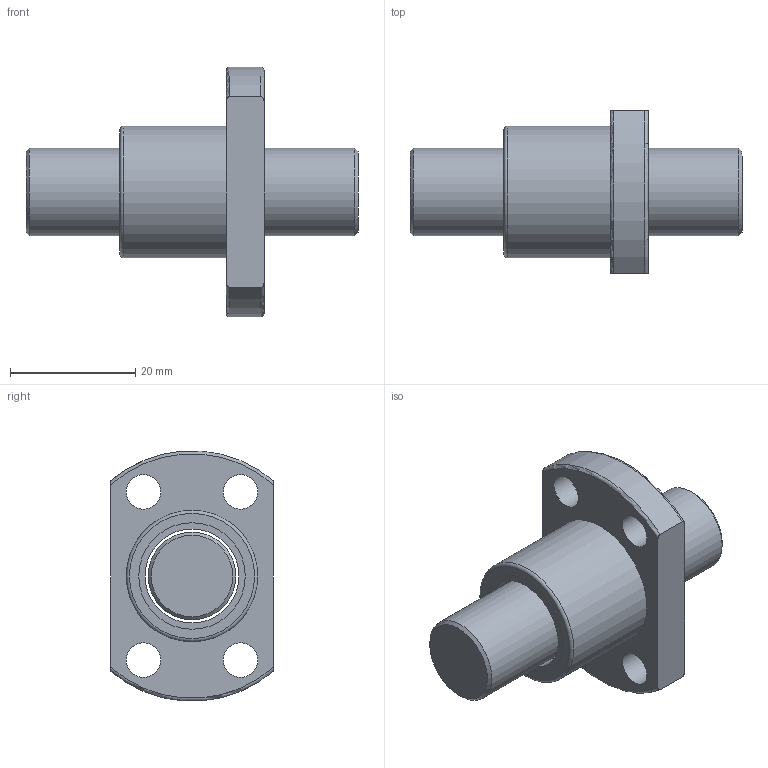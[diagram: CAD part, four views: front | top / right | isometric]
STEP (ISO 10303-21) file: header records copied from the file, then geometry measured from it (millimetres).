
FILE_DESCRIPTION(/* description */ (''),/* implementation_level */ '2;1');
FILE_NAME(/* name */ 'SFK1402',/* time_stamp */ '2007-10-26T10:41:42+08:00',/* author */ (''),/* organization */ (''),/* preprocessor_version */ 'ST-DEVELOPER v9',/* originating_system */ 'EDS PLM SOLUTIONS - UNIGRAPHICS NX 1.0',/* authorisation */ '');
FILE_SCHEMA (('CONFIG_CONTROL_DESIGN'));
Length unit declared in the file: millimetre
Products named in the file (1): FANNDA0400cf
Bounding box: 53 x 26 x 39.88 mm (x, y, z)
Volume: 15159.3 mm3; surface area: 8118.8 mm2
Topology: 4 solids, 4 shells, 35 faces, 73 edges, 49 vertices
Faces by surface type: cylinder 15, plane 13, torus 5, cone 2
Full cylindrical faces by diameter (mm): 5.5 x4, 14 x1, 15 x3, 17 x4, 21 x1
Entity records: 1066 total; most frequent: CARTESIAN_POINT 272, DIRECTION 154, ORIENTED_EDGE 106, AXIS2_PLACEMENT_3D 73, EDGE_LOOP 68, EDGE_CURVE 53, FACE_BOUND 47, VERTEX_POINT 45
